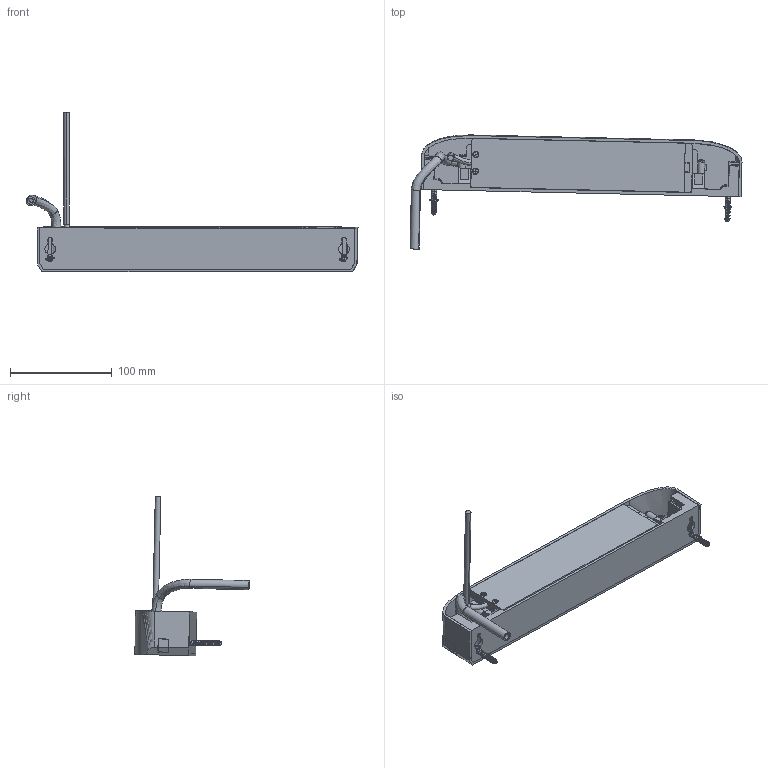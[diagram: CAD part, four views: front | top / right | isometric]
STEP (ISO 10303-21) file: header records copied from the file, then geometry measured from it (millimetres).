
FILE_DESCRIPTION(('Creo Elements/Direct Modeling STEP Export'),'2;1');
FILE_NAME('EE200.stp','2025-01-07T10:50:52',(''),(''),'Creo Elements/Direct Modeling STEP processor for AP214 (Solid Model)','Creo Elements/Direct Modeling 20.3B 05-Dec-2020 (C) Parametric Technology GmbH','');
FILE_SCHEMA(('AUTOMOTIVE_DESIGN { 1 0 10303 214 1 1 1 1 }'));
Length unit declared in the file: millimetre
Products named in the file (21): TANK.PRT; WANDBEFESTIGUNG.PRT; WUERTH_42243__6_W_S_PLAS-847900.PRT; WUERTH_42243__6_W_S_PLAS-841150.PRT; DIN_7981.PRT; DIN_7981_.PRT; WALL_SCREW_1_1.PRT; WALL_SCREW_1.PRT; SCREWS.ASM; SCHLAUCH_DRUCKSEITE2.PRT; PLASTIC_DOWEL_5X25_PRT_1.PRT; PLASTIC_DOWEL_5X25_PRT.PRT; ZUBEH_S_VR.ASM; POWER_CABLE.PRT; SCHWIMMER_ET_20100104.PRT; PUMPENGEH_S_DUSE.PRT; 1_PRT.PRT; 6_PRT.PRT; COVER; PUMPENBLOCK.ASM; EE200
Assembly tree (20 placements, depth 4):
  EE200
    PUMPENBLOCK.ASM
      COVER
      6_PRT.PRT
      1_PRT.PRT
      PUMPENGEH_S_DUSE.PRT
      SCHWIMMER_ET_20100104.PRT
      POWER_CABLE.PRT
    ZUBEH_S_VR.ASM
      PLASTIC_DOWEL_5X25_PRT.PRT
      PLASTIC_DOWEL_5X25_PRT_1.PRT
      SCHLAUCH_DRUCKSEITE2.PRT
      SCREWS.ASM
        WALL_SCREW_1.PRT
        WALL_SCREW_1_1.PRT
        DIN_7981_.PRT
        DIN_7981.PRT
        WUERTH_42243__6_W_S_PLAS-841150.PRT
        WUERTH_42243__6_W_S_PLAS-847900.PRT
    WANDBEFESTIGUNG.PRT
    TANK.PRT
Bounding box: 326.51 x 112.39 x 157.04 mm (x, y, z)
Volume: 257522.2 mm3; surface area: 216512.1 mm2
Topology: 17 solids, 17 shells, 1680 faces, 4533 edges, 2788 vertices
Faces by surface type: plane 592, bspline 430, cylinder 345, torus 140, cone 134, sphere 35, extrusion 4
Entity records: 87964 total; most frequent: CARTESIAN_POINT 38402, ORIENTED_EDGE 8854, DIRECTION 5797, EDGE_CURVE 4427, VERTEX_POINT 2788, AXIS2_PLACEMENT_3D 1946, VECTOR 1905, LINE 1901
